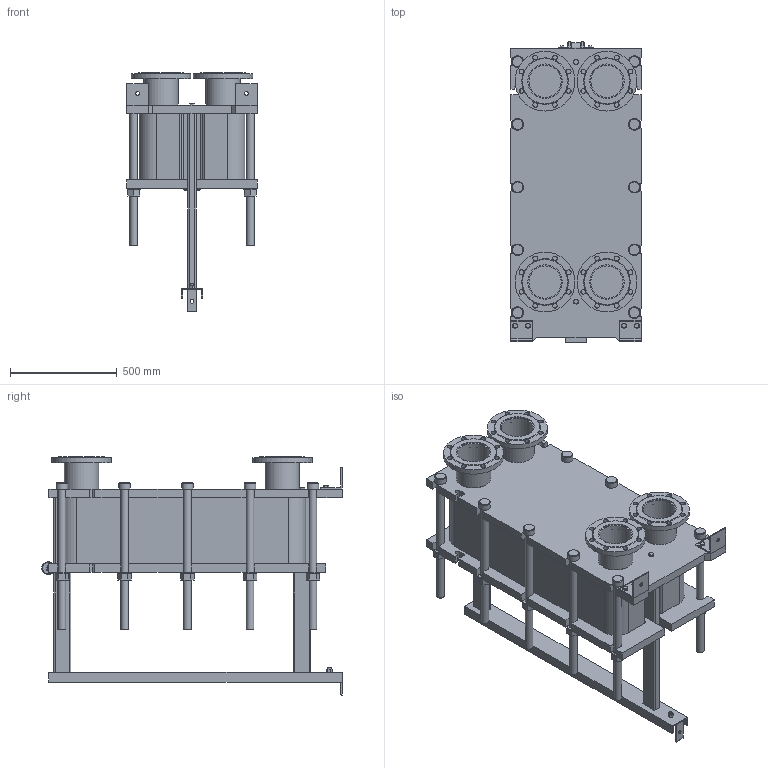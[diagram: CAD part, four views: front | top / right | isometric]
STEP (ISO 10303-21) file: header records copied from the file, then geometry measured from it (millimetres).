
FILE_DESCRIPTION(/* description */ (''),/* implementation_level */ '2;1');
FILE_NAME(/* name */ 'C:\Users\zhuro\Desktop\ENCO\TO\ЭН-041\ЭН-0,5-041-90-1.stp',/* time_stamp */ '2022-06-06T10:57:09+03:00',/* author */ ('zhuro'),/* organization */ (''),/* preprocessor_version */ 'ST-DEVELOPER v18.1',/* originating_system */ 'Autodesk Inventor 2022',/* authorisation */ '');
FILE_SCHEMA (('AUTOMOTIVE_DESIGN { 1 0 10303 214 3 1 1 }'));
Length unit declared in the file: millimetre
Products named in the file (1): ЭН-0,5-041-90-1
Bounding box: 610 x 1406.5 x 1115 mm (x, y, z)
Volume: 254407201.4 mm3; surface area: 8804019.3 mm2
Topology: 52 solids, 52 shells, 711 faces, 1696 edges, 1094 vertices
Faces by surface type: plane 487, cylinder 177, cone 41, torus 6
Full cylindrical faces by diameter (mm): 8 x4, 10 x2, 16 x8, 18 x3, 22 x32, 36 x24, 50 x1, 54 x10, 60 x12, 151 x4, 161 x8, 280 x4
Entity records: 22667 total; most frequent: CARTESIAN_POINT 5230, DIRECTION 3644, ORIENTED_EDGE 3392, EDGE_CURVE 1696, AXIS2_PLACEMENT_3D 1272, LINE 1100, VECTOR 1100, VERTEX_POINT 1094
